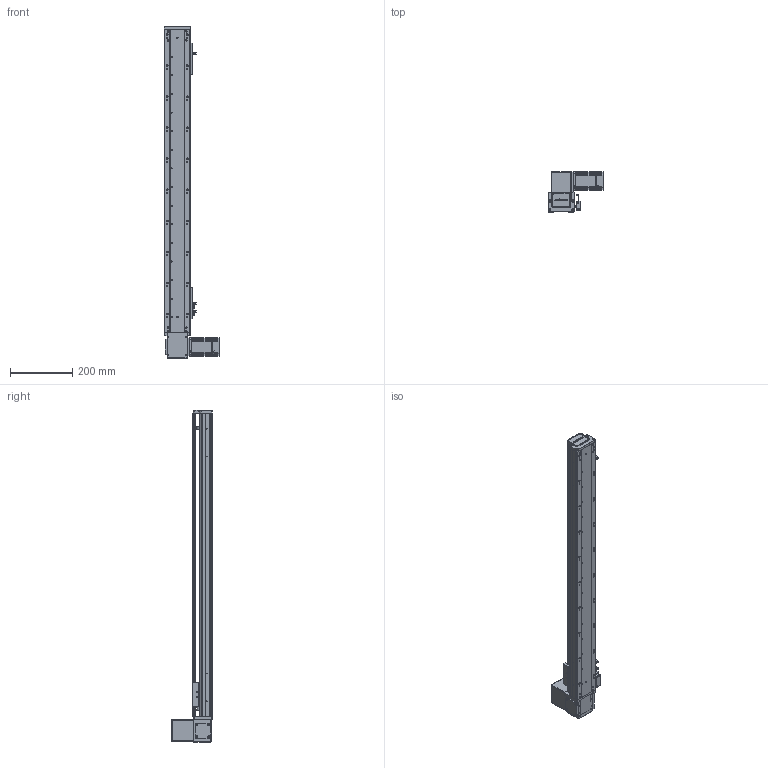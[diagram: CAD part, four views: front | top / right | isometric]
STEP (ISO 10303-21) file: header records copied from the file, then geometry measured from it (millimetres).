
FILE_DESCRIPTION (( 'STEP AP203' ), '1' );
FILE_NAME ('RY80-T-300-UR.SLDASM_800.step', '2021-03-01T02:26:23', ( '盈信电脑' ), ( '东莞市道滘镇水果街19号' ), 'SwSTEP 2.0', 'SolidWorks 2012', '' );
FILE_SCHEMA (( 'CONFIG_CONTROL_DESIGN' ));
Length unit declared in the file: millimetre
Products named in the file (20): RY80-T-300-UR.SLDASM_800; RY80-T萇儂假蚾啣; 1; RY80-T肮祭謫奻殏俋欶; RY80-T-M4蹟翐2; RY80-T-上下折同步轮盖板; RY100-T粣創揤踡裔; 滅袉蝶18-10; RY80-T翋肮祭謫裔啣; RY80-T粣創揤踡輸; RY80-T-翋肮祭謫釱; RY80-T肮祭湍揤輸2; RY80-T肮祭湍揤輸1; RY80俋离覜茼え; RY80-T綴裔啣; 672嫖萇羲壽假蚾釱; 覜茼ん672; RY80-T肮祭謫臏賑輸; RY80-T-300-UR倰第菁釱_800; RY80-T-300-UR倰第奻裔啣_800
Assembly tree (23 placements, depth 2):
  RY80-T-300-UR.SLDASM_800
    RY80-T-300-UR倰第菁釱_800
    RY80-T肮祭謫臏賑輸
    RY80-T-300-UR倰第奻裔啣_800
    RY80-T綴裔啣
    672嫖萇羲壽假蚾釱  x2
    覜茼ん672  x3
    RY80俋离覜茼え
    RY80-T-翋肮祭謫釱
    RY80-T肮祭湍揤輸1
    RY80-T肮祭湍揤輸2
    RY80-T粣創揤踡輸
    滅袉蝶18-10  x2
    RY100-T粣創揤踡裔
    RY80-T翋肮祭謫裔啣
    RY80-T-上下折同步轮盖板
    1
    RY80-T肮祭謫奻殏俋欶
    RY80-T-M4蹟翐2
    RY80-T萇儂假蚾啣
Bounding box: 180 x 130.5 x 1070 mm (x, y, z)
Volume: 1927413.2 mm3; surface area: 800851 mm2
Topology: 23 solids, 23 shells, 2589 faces, 7163 edges, 4656 vertices
Faces by surface type: plane 1363, cylinder 1027, cone 143, bspline 56
Entity records: 83782 total; most frequent: CARTESIAN_POINT 20946, ORIENTED_EDGE 12970, DIRECTION 12084, EDGE_CURVE 6485, VERTEX_POINT 4260, AXIS2_PLACEMENT_3D 4094, LINE 3896, VECTOR 3896
